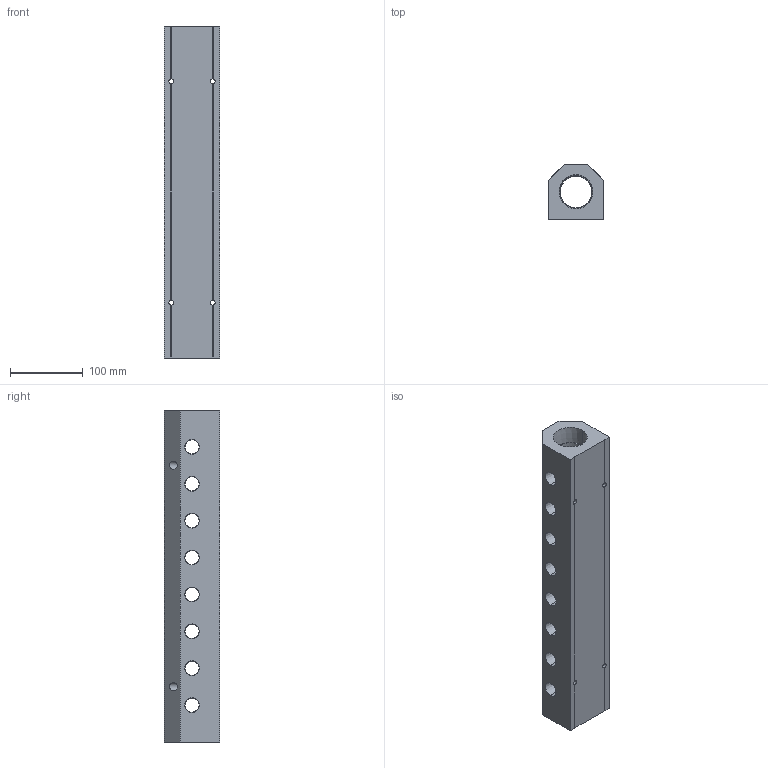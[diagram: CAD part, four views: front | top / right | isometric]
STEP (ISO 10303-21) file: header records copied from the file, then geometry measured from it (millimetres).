
FILE_DESCRIPTION (( 'STEP AP214' ), '1' );
FILE_NAME ('ALM8ACE-N8N24-457R.step', '2022-02-07T09:23:34', ( '' ), ( '' ), 'SwSTEP 2.0', 'SolidWorks 2020', '' );
FILE_SCHEMA (( 'AUTOMOTIVE_DESIGN' ));
Length unit declared in the file: millimetre
Products named in the file (1): ALM8ACE-N8N24-457R
Bounding box: 76.2 x 76.2 x 457 mm (x, y, z)
Volume: 1579412.7 mm3; surface area: 214506.4 mm2
Topology: 1 solids, 1 shells, 359 faces, 974 edges, 636 vertices
Faces by surface type: plane 224, bspline 65, cone 52, cylinder 18
Entity records: 20811 total; most frequent: CARTESIAN_POINT 8739, ORIENTED_EDGE 1948, DIRECTION 1454, EDGE_CURVE 974, LINE 696, VECTOR 696, VERTEX_POINT 636, EDGE_LOOP 436
